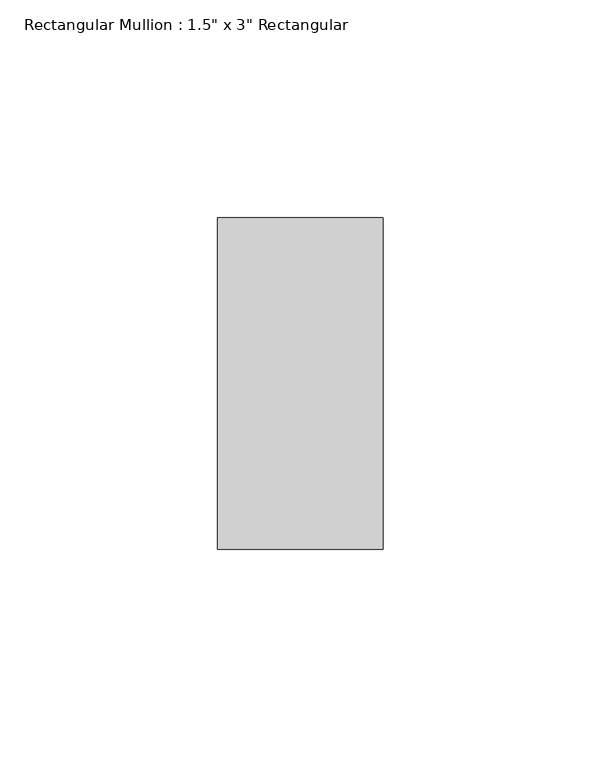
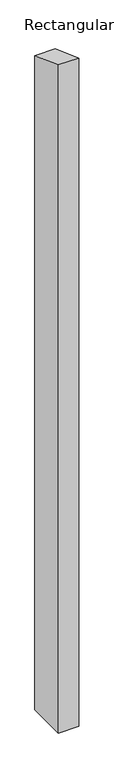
"""IFC4 building model written with IfcOpenShell, lengths in millimetres: member geometry."""

import ifcopenshell
import ifcopenshell.guid

model = None  # the IFC model being written
_history = None  # IfcOwnerHistory: only IFC2X3 demands one
_inside = {}  # id of a spatial element -> (the spatial element, [elements in it])
_under = {}  # id of a project, library or spatial element -> (it, [spatial elements below it])
_declared = {}  # id of a project -> (the project, [libraries it declares])
_typed = {}  # id of a type object -> (the type object, [elements of that type])
_made_of = {}  # id of a material, layer set ... -> (it, [elements and type objects made of it])


def new_model(schema):
    """Start an empty IFC model of exactly this schema.

    Asked for "IFC4X3", IfcOpenShell would pick the latest addendum, in which some entities
    have other attributes; the version numbers below select the first issue.
    IFC2X3 requires an IfcOwnerHistory on every rooted entity: one is made here for all.
    """
    global model, _history
    if schema == "IFC4X3":
        model = ifcopenshell.file(schema_version=(4, 3, 0, 0))
    else:
        model = ifcopenshell.file(schema=schema)
    _inside.clear()
    _under.clear()
    _declared.clear()
    _typed.clear()
    _made_of.clear()
    _history = None
    if model.schema == "IFC2X3":
        org = make("IfcOrganization", Name="unknown")
        user = make(
            "IfcPersonAndOrganization",
            ThePerson=make("IfcPerson", FamilyName="unknown"),
            TheOrganization=org,
        )
        app = make(
            "IfcApplication",
            ApplicationDeveloper=org,
            Version="unknown",
            ApplicationFullName="unknown",
            ApplicationIdentifier="unknown",
        )
        _history = make(
            "IfcOwnerHistory",
            OwningUser=user,
            OwningApplication=app,
            ChangeAction="ADDED",
            CreationDate=0,
        )
    return model


def make(cls, **values):
    """One entity of the class cls with the attributes given. An attribute that is None is left unset."""
    return model.create_entity(
        cls, **{name: value for name, value in values.items() if value is not None}
    )


def rooted(cls, **values):
    """An entity with a GlobalId (a new one), such as an element, a storey or a relation."""
    return make(cls, GlobalId=ifcopenshell.guid.new(), OwnerHistory=_history, **values)


def si_unit(unit_type, name, prefix=None):
    """IfcSIUnit, for example si_unit("LENGTHUNIT", "METRE", prefix="MILLI")."""
    return make("IfcSIUnit", UnitType=unit_type, Prefix=prefix, Name=name)


def assignment(units):
    """IfcUnitAssignment: the units of a project."""
    return None if units is None else make("IfcUnitAssignment", Units=units)


def point(xyz):
    """IfcCartesianPoint."""
    return None if xyz is None else make("IfcCartesianPoint", Coordinates=xyz)


def direction(xyz):
    """IfcDirection."""
    return None if xyz is None else make("IfcDirection", DirectionRatios=xyz)


def frame(location, z_axis=None, x_axis=None):
    """IfcAxis2Placement3D, a coordinate frame: its origin and axes. An axis left out is left unset."""
    return make(
        "IfcAxis2Placement3D",
        Location=point(location),
        Axis=direction(z_axis),
        RefDirection=direction(x_axis),
    )


def origin():
    """The frame at (0, 0, 0) with its axes left unset."""
    return frame((0.0, 0.0, 0.0))


def place(relative_to, where):
    """IfcLocalPlacement: puts the frame where relative to a parent placement (None: the world)."""
    return make(
        "IfcLocalPlacement", PlacementRelTo=relative_to, RelativePlacement=where
    )


def context(
    kind, dimensions, precision=None, world=None, true_north=None, identifier=None
):
    """IfcGeometricRepresentationContext, for example the 3D "Model" context."""
    return make(
        "IfcGeometricRepresentationContext",
        ContextIdentifier=identifier,
        ContextType=kind,
        CoordinateSpaceDimension=dimensions,
        Precision=precision,
        WorldCoordinateSystem=world,
        TrueNorth=true_north,
    )


def project(units=None, contexts=None):
    """IfcProject with its units and contexts."""
    return rooted(
        "IfcProject",
        Name="project",
        RepresentationContexts=contexts,
        UnitsInContext=assignment(units),
    )


def spatial(cls, under=None, at=None, **own):
    """A site, building, storey or space (cls), placed at a placement, below another one or the project."""
    s = rooted(cls, ObjectPlacement=at, **own)
    if under is not None:
        _under.setdefault(under.id(), (under, []))[1].append(s)
    return s


def polyline(points):
    """IfcPolyline through the points."""
    return make("IfcPolyline", Points=[point(p) for p in points])


def outline(outer, holes=None, kind="AREA"):
    """IfcArbitraryClosedProfileDef: a profile drawn as a closed curve; with holes, ...WithVoids."""
    if holes is None:
        return make("IfcArbitraryClosedProfileDef", ProfileType=kind, OuterCurve=outer)
    return make(
        "IfcArbitraryProfileDefWithVoids",
        ProfileType=kind,
        OuterCurve=outer,
        InnerCurves=holes,
    )


def extrude(swept, where, along, depth):
    """IfcExtrudedAreaSolid: the profile swept, set in the frame where, extruded along a direction by depth."""
    return make(
        "IfcExtrudedAreaSolid",
        SweptArea=swept,
        Position=where,
        ExtrudedDirection=direction(along),
        Depth=depth,
    )


def shape(context_of_items, identifier, shape_type, items):
    """IfcShapeRepresentation: the items that make up one representation, for example the "Body"."""
    return make(
        "IfcShapeRepresentation",
        ContextOfItems=context_of_items,
        RepresentationIdentifier=identifier,
        RepresentationType=shape_type,
        Items=items,
    )


def source(mapping_origin, context_of_items, identifier, shape_type, items):
    """IfcRepresentationMap: a shape defined once, which mapped items show again and again."""
    return make(
        "IfcRepresentationMap",
        MappingOrigin=mapping_origin,
        MappedRepresentation=shape(context_of_items, identifier, shape_type, items),
    )


def transform(
    local_origin,
    x_axis=None,
    y_axis=None,
    z_axis=None,
    scale=None,
    scale2=None,
    scale3=None,
    uniform=True,
):
    """IfcCartesianTransformationOperator3D, or its non-uniform kind. x_axis, y_axis, z_axis: its Axis1, 2, 3."""
    if uniform:
        return make(
            "IfcCartesianTransformationOperator3D",
            Axis1=direction(x_axis),
            Axis2=direction(y_axis),
            LocalOrigin=point(local_origin),
            Scale=scale,
            Axis3=direction(z_axis),
        )
    return make(
        "IfcCartesianTransformationOperator3DnonUniform",
        Axis1=direction(x_axis),
        Axis2=direction(y_axis),
        LocalOrigin=point(local_origin),
        Scale=scale,
        Axis3=direction(z_axis),
        Scale2=scale2,
        Scale3=scale3,
    )


def mapped(mapping_source, mapping_target):
    """IfcMappedItem: shows the shape of a source again, moved by a transform."""
    return make(
        "IfcMappedItem", MappingSource=mapping_source, MappingTarget=mapping_target
    )


def made_of(thing, what):
    """Note that an element or type object is made of a material, layer set ...; save() writes the relation."""
    if what is not None:
        _made_of.setdefault(what.id(), (what, []))[1].append(thing)
    return thing


def element(
    cls,
    number,
    at=None,
    inside=None,
    cuts=None,
    type_object=None,
    material=None,
    context=None,
    identifier="Body",
    shape_type=None,
    held_by="IfcProductDefinitionShape",
    body=None,
    shapes=None,
    **own,
):
    """One element of the class cls, such as IfcWall. Its Tag is "e" and its number.

    at: its placement. inside: the storey or other place that contains it. cuts: it is an
    opening in that element (IfcRelVoidsElement). A single representation is given by context,
    identifier, shape_type and body (its items); several are given by shapes. held_by: the class
    of the entity that holds the representations. save() writes the other relations.
    """
    e = rooted(cls, Tag="e%d" % number, ObjectPlacement=at, **own)
    if body is not None:
        shapes = [shape(context, identifier, shape_type, body)]
    if shapes is not None:
        e.Representation = make(held_by, Representations=shapes)
    if inside is not None:
        _inside.setdefault(inside.id(), (inside, []))[1].append(e)
    if cuts is not None:
        rooted(
            "IfcRelVoidsElement", RelatingBuildingElement=cuts, RelatedOpeningElement=e
        )
    if type_object is not None:
        _typed.setdefault(type_object.id(), (type_object, []))[1].append(e)
    return made_of(e, material)


def aggregate(whole, parts):
    """IfcRelAggregates: a whole, such as a stair, and the parts it consists of."""
    return rooted("IfcRelAggregates", RelatingObject=whole, RelatedObjects=parts)


def save(model, path):
    """Write the relations noted so far, then the file.

    IfcRelAggregates (storeys below a building ...), IfcRelContainedInSpatialStructure (elements
    in a storey), IfcRelDefinesByType, IfcRelAssociatesMaterial and IfcRelDeclares: one each for
    every whole, place, type object, material and project.
    """
    for whole, parts in _under.values():
        aggregate(whole, parts)
    for where, things in _inside.values():
        rooted(
            "IfcRelContainedInSpatialStructure",
            RelatedElements=things,
            RelatingStructure=where,
        )
    for kind, things in _typed.values():
        rooted("IfcRelDefinesByType", RelatedObjects=things, RelatingType=kind)
    for what, things in _made_of.values():
        rooted("IfcRelAssociatesMaterial", RelatedObjects=things, RelatingMaterial=what)
    for by, libraries in _declared.values():
        rooted("IfcRelDeclares", RelatingContext=by, RelatedDefinitions=libraries)
    model.write(path)


def member_bfb63071(model_context):
    return source(origin(), model_context, "Body", "SweptSolid", [
        extrude(outline(polyline([(-38.1, 13.8672659), (38.1, -13.8672659), (38.1, -1309.820053), (-38.1, -1309.820053), (-38.1, 13.8672659)])), frame((-38.1, 0.0, 0.0), z_axis=(1.0, 0.0, 0.0), x_axis=(0.0, 1.0, 0.0)), (0.0, 0.0, 1.0), 38.1),
    ])


if __name__ == "__main__":
    model = new_model("IFC4")
    model_context = context("Model", 3, world=origin())
    ifc_project = project(units=[si_unit("LENGTHUNIT", "METRE", prefix="MILLI")], contexts=[model_context])
    site = spatial("IfcSite", under=ifc_project)
    building = spatial("IfcBuilding", under=site)
    placement = place(None, origin())
    member_shape = member_bfb63071(model_context)
    element("IfcMember", 1, ObjectType="Rectangular Mullion : 1.5\" x 3\" Rectangular", at=placement, inside=building, context=model_context, shape_type="MappedRepresentation", body=[
        mapped(member_shape, transform((0.0, 0.0, 0.0), x_axis=(1.0, 0.0, 0.0), y_axis=(0.0, 1.0, 0.0), z_axis=(0.0, 0.0, 1.0))),
    ])
    save(model, "model.ifc")
